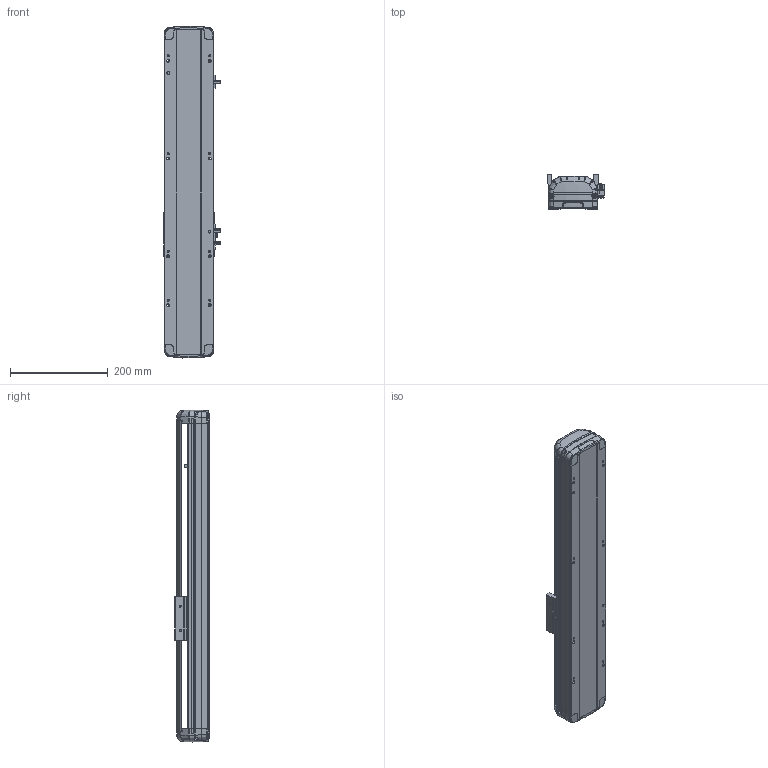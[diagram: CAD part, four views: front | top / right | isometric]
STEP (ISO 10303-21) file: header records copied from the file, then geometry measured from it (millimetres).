
FILE_DESCRIPTION (( 'STEP AP214' ), '1' );
FILE_NAME ('RTH10-XX-300-B-M10-C4.STEP', '2025-10-25T05:08:41', ( 'Microsoft' ), ( 'Microsoft' ), 'SwSTEP 2.0', 'SolidWorks 2018', '' );
FILE_SCHEMA (( 'AUTOMOTIVE_DESIGN' ));
Length unit declared in the file: millimetre
Products named in the file (7): N_RTH12-GY-004-賑釱^RTH10-XX-XX-B-M10-C4; N_RTH12-B-007P-奻裔^RTH10-XX-XX-B-M10-C4; N_RTH12-GY-001P^RTH10-XX-XX-B-M10-C4; N_RTH12-B-011P-臏倰第菁釱^RTH10-XX-XX-B-M10-C4; N_OMRON EE-SX672 传感器^RTH10-XX-XX-B-M10-C4; N_RTH13-L-012覜茼え俋离^RTH10-XX-XX-B-M10-C4; RTH10-XX-300-B-M10-C4
Assembly tree (9 placements, depth 2):
  RTH10-XX-300-B-M10-C4
    N_RTH12-B-011P-臏倰第菁釱^RTH10-XX-XX-B-M10-C4
    N_RTH13-L-012覜茼え俋离^RTH10-XX-XX-B-M10-C4
    N_OMRON EE-SX672 传感器^RTH10-XX-XX-B-M10-C4  x3
    N_RTH12-B-007P-奻裔^RTH10-XX-XX-B-M10-C4
    N_RTH12-GY-004-賑釱^RTH10-XX-XX-B-M10-C4
    N_RTH12-GY-001P^RTH10-XX-XX-B-M10-C4  x2
Bounding box: 116.5 x 70 x 679.29 mm (x, y, z)
Volume: 2587181.3 mm3; surface area: 443210.1 mm2
Topology: 7 solids, 11 shells, 2160 faces, 6034 edges, 3948 vertices
Faces by surface type: plane 1045, bspline 712, cylinder 383, cone 16, torus 4
Entity records: 47882 total; most frequent: CARTESIAN_POINT 21138, ORIENTED_EDGE 6196, DIRECTION 4282, EDGE_CURVE 3104, VERTEX_POINT 2035, VECTOR 1616, LINE 1616, AXIS2_PLACEMENT_3D 1333
